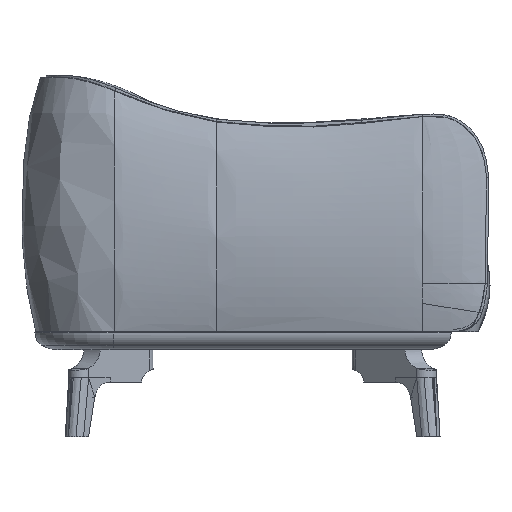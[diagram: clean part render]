
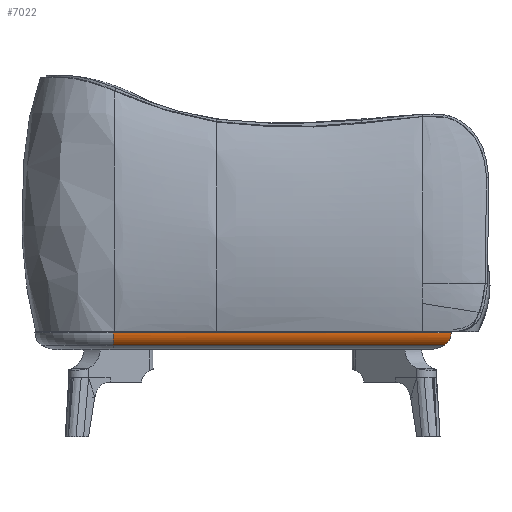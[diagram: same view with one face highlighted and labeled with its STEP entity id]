
A CAD part, left-side view. The second image highlights one B-rep face of the part: STEP entity #7022.
In plain terms, the highlighted cylindrical face has radius 32 mm (diameter 64 mm), a partial arc.
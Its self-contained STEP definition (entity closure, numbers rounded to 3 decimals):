
#169=CYLINDRICAL_SURFACE('',#7592,32.);
#266=ELLIPSE('',#7593,45.255,32.);
#546=LINE('',#22864,#1014);
#547=LINE('',#22865,#1015);
#1014=VECTOR('',#8780,10.);
#1015=VECTOR('',#8781,10.);
#1362=CIRCLE('',#7580,32.);
#1363=CIRCLE('',#7582,32.);
#1920=FACE_OUTER_BOUND('',#2380,.T.);
#2380=EDGE_LOOP('',(#5563,#5564,#5565,#5566,#5567));
#3241=VERTEX_POINT('',#22828);
#3246=VERTEX_POINT('',#22839);
#3247=VERTEX_POINT('',#22843);
#3253=VERTEX_POINT('',#22861);
#3254=VERTEX_POINT('',#22862);
#4081=EDGE_CURVE('',#3246,#3241,#1362,.T.);
#4082=EDGE_CURVE('',#3247,#3246,#1363,.T.);
#4091=EDGE_CURVE('',#3253,#3254,#266,.T.);
#4092=EDGE_CURVE('',#3254,#3241,#546,.T.);
#4093=EDGE_CURVE('',#3247,#3253,#547,.T.);
#5563=ORIENTED_EDGE('',*,*,#4091,.T.);
#5564=ORIENTED_EDGE('',*,*,#4092,.T.);
#5565=ORIENTED_EDGE('',*,*,#4081,.F.);
#5566=ORIENTED_EDGE('',*,*,#4082,.F.);
#5567=ORIENTED_EDGE('',*,*,#4093,.T.);
#7022=ADVANCED_FACE('',(#1920),#169,.T.);
#7580=AXIS2_PLACEMENT_3D('',#22841,#8751,#8752);
#7582=AXIS2_PLACEMENT_3D('',#22844,#8755,#8756);
#7592=AXIS2_PLACEMENT_3D('',#22860,#8776,#8777);
#7593=AXIS2_PLACEMENT_3D('',#22863,#8778,#8779);
#8751=DIRECTION('center_axis',(0.,1.,0.));
#8752=DIRECTION('ref_axis',(-1.,0.,0.013));
#8755=DIRECTION('center_axis',(0.,1.,0.));
#8756=DIRECTION('ref_axis',(-1.,0.,0.));
#8776=DIRECTION('center_axis',(0.,-1.,0.));
#8777=DIRECTION('ref_axis',(-1.,0.,0.));
#8778=DIRECTION('center_axis',(-0.707,0.707,0.));
#8779=DIRECTION('ref_axis',(-0.707,-0.707,0.));
#8780=DIRECTION('',(0.,1.,0.));
#8781=DIRECTION('',(0.,-1.,0.));
#22828=CARTESIAN_POINT('',(117.603,919.065,238.986));
#22839=CARTESIAN_POINT('',(117.601,919.065,238.584));
#22841=CARTESIAN_POINT('Origin',(149.601,919.065,238.584));
#22843=CARTESIAN_POINT('',(132.043,919.065,211.831));
#22844=CARTESIAN_POINT('Origin',(149.601,919.065,238.584));
#22860=CARTESIAN_POINT('Origin',(149.601,124.19,238.584));
#22861=CARTESIAN_POINT('',(132.043,211.002,211.831));
#22862=CARTESIAN_POINT('',(117.603,196.563,238.986));
#22863=CARTESIAN_POINT('Origin',(149.601,228.561,238.584));
#22864=CARTESIAN_POINT('',(117.603,196.563,238.986));
#22865=CARTESIAN_POINT('',(132.043,919.065,211.831));
